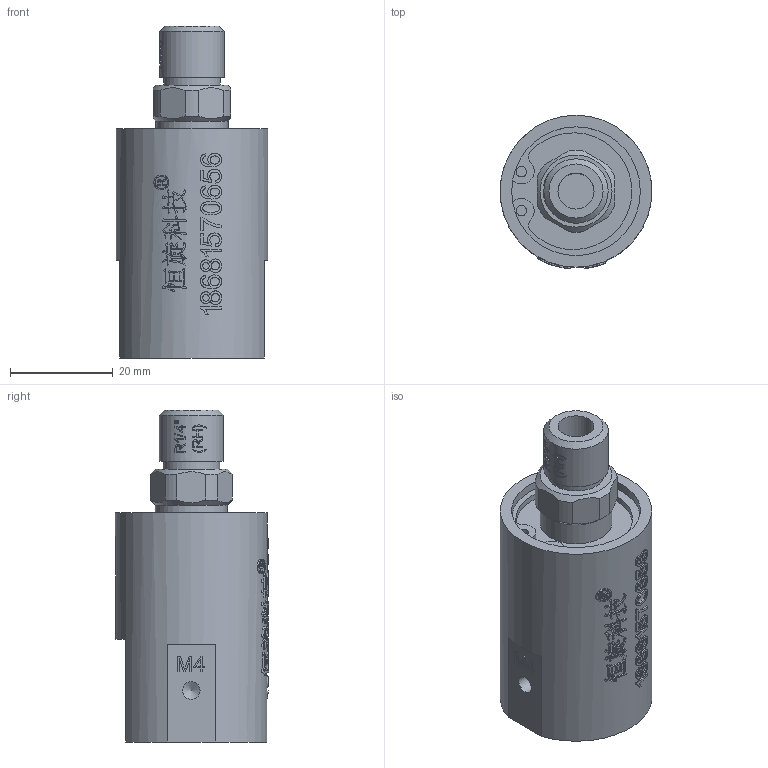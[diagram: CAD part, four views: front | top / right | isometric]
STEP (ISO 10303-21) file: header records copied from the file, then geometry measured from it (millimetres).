
FILE_DESCRIPTION(/* description */ (''),/* implementation_level */ '2;1');
FILE_NAME(/* name */ 'HC0102(RH)-3D模型.stp',/* time_stamp */ '2025-07-05T18:00:10+08:00',/* author */ (''),/* organization */ (''),/* preprocessor_version */ 'ST-DEVELOPER v16.7',/* originating_system */ 'SIEMENS PLM Software NX 12.0',/* authorisation */ '');
FILE_SCHEMA (('AUTOMOTIVE_DESIGN { 1 0 10303 214 3 1 1 1 }'));
Length unit declared in the file: millimetre
Products named in the file (1): Admi0F5C2A87wni1
Bounding box: 29.5 x 29.76 x 64.5 mm (x, y, z)
Volume: 28395 mm3; surface area: 8810.9 mm2
Topology: 1 solids, 1 shells, 916 faces, 2518 edges, 1680 vertices
Faces by surface type: extrusion 432, plane 389, bspline 48, cylinder 42, cone 5
Full cylindrical faces by diameter (mm): 2 x2, 3.4 x2, 7 x2, 11 x1, 11.6 x1, 12.5 x1, 14 x1, 25 x1, 26.2 x1, 29.5 x1
Entity records: 36372 total; most frequent: CARTESIAN_POINT 16717, ORIENTED_EDGE 4978, EDGE_CURVE 2489, B_SPLINE_CURVE_WITH_KNOTS 2276, DIRECTION 2186, VERTEX_POINT 1671, EDGE_LOOP 1012, ADVANCED_FACE 916
